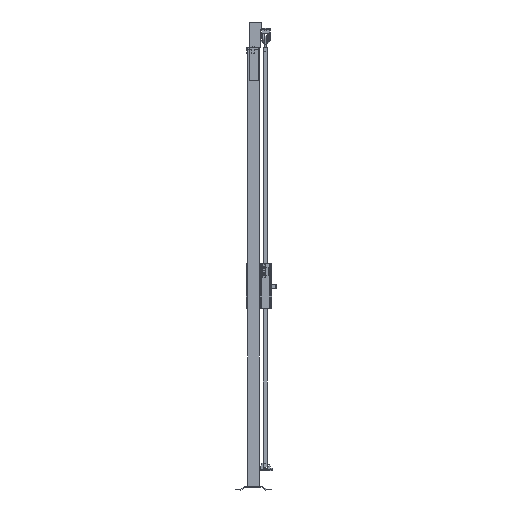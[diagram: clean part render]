
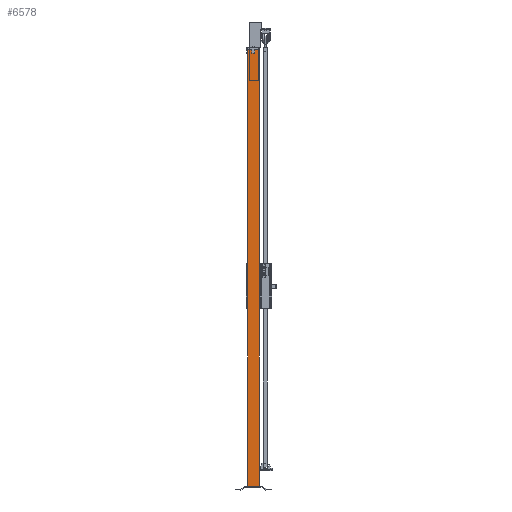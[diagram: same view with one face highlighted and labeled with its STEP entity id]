
A CAD part, left-side view. The second image highlights one B-rep face of the part: STEP entity #6578.
In plain terms, the highlighted planar face has unit normal (-1, 0, 0).
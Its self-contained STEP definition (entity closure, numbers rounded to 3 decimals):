
#563=FACE_OUTER_BOUND('',#1042,.T.);
#1042=EDGE_LOOP('',(#4114,#4115,#4116,#4117));
#1588=VERTEX_POINT('',#14538);
#1589=VERTEX_POINT('',#14540);
#1592=VERTEX_POINT('',#14547);
#1593=VERTEX_POINT('',#14549);
#2566=EDGE_CURVE('',#1588,#1589,#7890,.T.);
#2570=EDGE_CURVE('',#1592,#1593,#7894,.T.);
#2572=EDGE_CURVE('',#1589,#1592,#7896,.T.);
#2574=EDGE_CURVE('',#1588,#1593,#7898,.T.);
#4114=ORIENTED_EDGE('',*,*,#2574,.T.);
#4115=ORIENTED_EDGE('',*,*,#2570,.F.);
#4116=ORIENTED_EDGE('',*,*,#2572,.F.);
#4117=ORIENTED_EDGE('',*,*,#2566,.F.);
#6142=PLANE('',#10236);
#6578=ADVANCED_FACE('',(#563),#6142,.F.);
#7890=LINE('',#14541,#9209);
#7894=LINE('',#14550,#9213);
#7896=LINE('',#14553,#9215);
#7898=LINE('',#14556,#9217);
#9209=VECTOR('',#11448,1.);
#9213=VECTOR('',#11454,1.);
#9215=VECTOR('',#11458,1.);
#9217=VECTOR('',#11462,1.);
#10236=AXIS2_PLACEMENT_3D('',#14555,#11460,#11461);
#11448=DIRECTION('',(0.,-1.,0.));
#11454=DIRECTION('',(0.,1.,0.));
#11458=DIRECTION('',(0.,0.,-1.));
#11460=DIRECTION('center_axis',(1.,0.,0.));
#11461=DIRECTION('ref_axis',(0.,0.,-1.));
#11462=DIRECTION('',(0.,0.,-1.));
#14538=CARTESIAN_POINT('',(-30.,30.,2320.));
#14540=CARTESIAN_POINT('',(-30.,-30.,2320.));
#14541=CARTESIAN_POINT('',(-30.,0.,2320.));
#14547=CARTESIAN_POINT('',(-30.,-30.,20.));
#14549=CARTESIAN_POINT('',(-30.,30.,20.));
#14550=CARTESIAN_POINT('',(-30.,0.,20.));
#14553=CARTESIAN_POINT('',(-30.,-30.,1170.));
#14555=CARTESIAN_POINT('Origin',(-30.,0.,
1170.));
#14556=CARTESIAN_POINT('',(-30.,30.,1170.));
